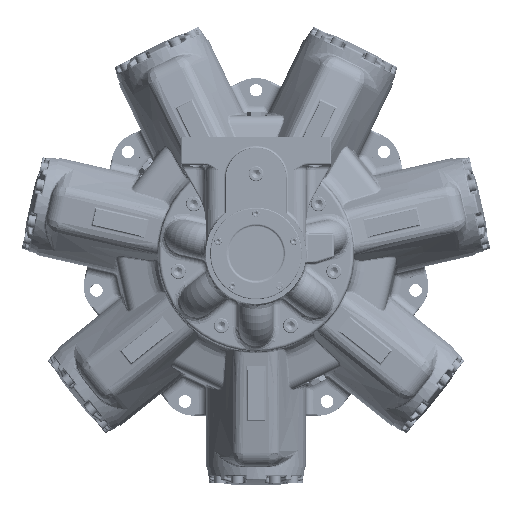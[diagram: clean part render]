
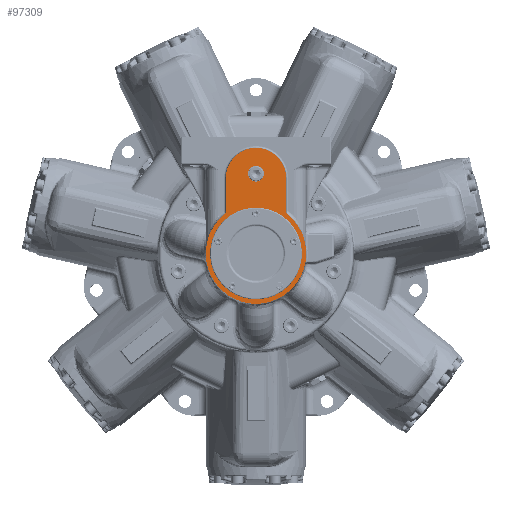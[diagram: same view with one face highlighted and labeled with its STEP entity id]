
A CAD part, top view. The second image highlights one B-rep face of the part: STEP entity #97309.
In plain terms, the highlighted planar face has unit normal (0, 0, 1).
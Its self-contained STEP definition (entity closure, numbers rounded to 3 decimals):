
#1982=FACE_BOUND('',#20767,.T.);
#1983=FACE_BOUND('',#20768,.T.);
#2299=PLANE('',#103497);
#4092=LINE('',#137819,#8685);
#4093=LINE('',#137823,#8686);
#8685=VECTOR('',#111745,10.);
#8686=VECTOR('',#111748,10.);
#14627=FACE_OUTER_BOUND('',#20766,.T.);
#20766=EDGE_LOOP('',(#59608,#59609,#59610,#59611,#59612,#59613));
#20767=EDGE_LOOP('',(#59614));
#20768=EDGE_LOOP('',(#59615));
#27240=CIRCLE('',#103498,48.101);
#27241=CIRCLE('',#103499,80.);
#27242=CIRCLE('',#103500,73.025);
#27243=CIRCLE('',#103501,12.7);
#31066=B_SPLINE_CURVE_WITH_KNOTS('',3,(#137787,#137788,#137789,#137790,
#137791,#137792,#137793,#137794,#137795,#137796,#137797,#137798,#137799,
#137800,#137801,#137802,#137803,#137804,#137805,#137806,#137807,#137808,
#137809,#137810,#137811,#137812,#137813,#137814,#137815,#137816,#137817),
 .UNSPECIFIED.,.F.,.F.,(4,3,3,3,3,3,3,3,3,3,4),(-0.273,-0.243,
-0.213,-0.195,-0.165,-0.134,
-0.117,-0.087,-0.056,-0.026,
0.),.UNSPECIFIED.);
#31067=B_SPLINE_CURVE_WITH_KNOTS('',3,(#137825,#137826,#137827,#137828,
#137829,#137830,#137831,#137832,#137833,#137834,#137835,#137836,#137837,
#137838,#137839,#137840,#137841,#137842,#137843,#137844,#137845,#137846,
#137847,#137848,#137849,#137850,#137851,#137852,#137853,#137854,#137855),
 .UNSPECIFIED.,.F.,.F.,(4,3,3,3,3,3,3,3,3,3,4),(-0.273,-0.243,
-0.213,-0.195,-0.165,-0.134,
-0.117,-0.087,-0.056,-0.026,
0.),.UNSPECIFIED.);
#36072=VERTEX_POINT('',#137785);
#36073=VERTEX_POINT('',#137786);
#36074=VERTEX_POINT('',#137818);
#36075=VERTEX_POINT('',#137820);
#36076=VERTEX_POINT('',#137822);
#36077=VERTEX_POINT('',#137824);
#36078=VERTEX_POINT('',#137857);
#36079=VERTEX_POINT('',#137859);
#44919=EDGE_CURVE('',#36072,#36073,#31066,.T.);
#44920=EDGE_CURVE('',#36074,#36072,#4092,.T.);
#44921=EDGE_CURVE('',#36075,#36074,#27240,.T.);
#44922=EDGE_CURVE('',#36076,#36075,#4093,.T.);
#44923=EDGE_CURVE('',#36077,#36076,#31067,.T.);
#44924=EDGE_CURVE('',#36073,#36077,#27241,.T.);
#44925=EDGE_CURVE('',#36078,#36078,#27242,.T.);
#44926=EDGE_CURVE('',#36079,#36079,#27243,.T.);
#59608=ORIENTED_EDGE('',*,*,#44919,.F.);
#59609=ORIENTED_EDGE('',*,*,#44920,.F.);
#59610=ORIENTED_EDGE('',*,*,#44921,.F.);
#59611=ORIENTED_EDGE('',*,*,#44922,.F.);
#59612=ORIENTED_EDGE('',*,*,#44923,.F.);
#59613=ORIENTED_EDGE('',*,*,#44924,.F.);
#59614=ORIENTED_EDGE('',*,*,#44925,.F.);
#59615=ORIENTED_EDGE('',*,*,#44926,.T.);
#97309=ADVANCED_FACE('',(#14627,#1982,#1983),#2299,.F.);
#103497=AXIS2_PLACEMENT_3D('',#137784,#111743,#111744);
#103498=AXIS2_PLACEMENT_3D('',#137821,#111746,#111747);
#103499=AXIS2_PLACEMENT_3D('',#137856,#111749,#111750);
#103500=AXIS2_PLACEMENT_3D('',#137858,#111751,#111752);
#103501=AXIS2_PLACEMENT_3D('',#137860,#111753,#111754);
#111743=DIRECTION('center_axis',(0.,0.,-1.));
#111744=DIRECTION('ref_axis',(0.,-1.,0.));
#111745=DIRECTION('',(0.,-1.,0.));
#111746=DIRECTION('center_axis',(0.,0.,-1.));
#111747=DIRECTION('ref_axis',(1.,0.,0.));
#111748=DIRECTION('',(0.,1.,0.));
#111749=DIRECTION('center_axis',(0.,0.,-1.));
#111750=DIRECTION('ref_axis',(0.,-1.,0.));
#111751=DIRECTION('center_axis',(0.,0.,
1.));
#111752=DIRECTION('ref_axis',(-0.588,-0.809,0.));
#111753=DIRECTION('center_axis',(0.,0.,-1.));
#111754=DIRECTION('ref_axis',(-1.,0.,0.));
#137784=CARTESIAN_POINT('Origin',(0.,-51.657,449.706));
#137785=CARTESIAN_POINT('',(48.101,65.405,449.706));
#137786=CARTESIAN_POINT('',(49.256,63.039,449.706));
#137787=CARTESIAN_POINT('Ctrl Pts',(48.101,65.405,449.706));
#137788=CARTESIAN_POINT('Ctrl Pts',(48.101,65.306,449.706));
#137789=CARTESIAN_POINT('Ctrl Pts',(48.106,65.207,449.706));
#137790=CARTESIAN_POINT('Ctrl Pts',(48.117,65.108,449.706));
#137791=CARTESIAN_POINT('Ctrl Pts',(48.127,65.008,449.706));
#137792=CARTESIAN_POINT('Ctrl Pts',(48.143,64.908,449.706));
#137793=CARTESIAN_POINT('Ctrl Pts',(48.164,64.809,449.706));
#137794=CARTESIAN_POINT('Ctrl Pts',(48.176,64.751,449.706));
#137795=CARTESIAN_POINT('Ctrl Pts',(48.189,64.694,449.706));
#137796=CARTESIAN_POINT('Ctrl Pts',(48.205,64.638,449.706));
#137797=CARTESIAN_POINT('Ctrl Pts',(48.231,64.54,449.706));
#137798=CARTESIAN_POINT('Ctrl Pts',(48.262,64.443,449.706));
#137799=CARTESIAN_POINT('Ctrl Pts',(48.298,64.349,449.706));
#137800=CARTESIAN_POINT('Ctrl Pts',(48.335,64.254,449.706));
#137801=CARTESIAN_POINT('Ctrl Pts',(48.375,64.16,449.706));
#137802=CARTESIAN_POINT('Ctrl Pts',(48.421,64.069,449.706));
#137803=CARTESIAN_POINT('Ctrl Pts',(48.446,64.019,449.706));
#137804=CARTESIAN_POINT('Ctrl Pts',(48.472,63.969,449.706));
#137805=CARTESIAN_POINT('Ctrl Pts',(48.5,63.921,449.706));
#137806=CARTESIAN_POINT('Ctrl Pts',(48.55,63.832,449.706));
#137807=CARTESIAN_POINT('Ctrl Pts',(48.605,63.745,449.706));
#137808=CARTESIAN_POINT('Ctrl Pts',(48.664,63.662,449.706));
#137809=CARTESIAN_POINT('Ctrl Pts',(48.722,63.579,449.706));
#137810=CARTESIAN_POINT('Ctrl Pts',(48.785,63.5,449.706));
#137811=CARTESIAN_POINT('Ctrl Pts',(48.851,63.423,449.706));
#137812=CARTESIAN_POINT('Ctrl Pts',(48.916,63.349,449.706));
#137813=CARTESIAN_POINT('Ctrl Pts',(48.985,63.277,449.706));
#137814=CARTESIAN_POINT('Ctrl Pts',(49.057,63.21,449.706));
#137815=CARTESIAN_POINT('Ctrl Pts',(49.12,63.15,449.706));
#137816=CARTESIAN_POINT('Ctrl Pts',(49.187,63.093,449.706));
#137817=CARTESIAN_POINT('Ctrl Pts',(49.256,63.039,449.706));
#137818=CARTESIAN_POINT('',(48.101,120.,449.706));
#137819=CARTESIAN_POINT('',(48.101,6.171,449.706));
#137820=CARTESIAN_POINT('',(-48.101,120.,449.706));
#137821=CARTESIAN_POINT('Origin',(0.,120.,449.706));
#137822=CARTESIAN_POINT('',(-48.101,65.405,449.706));
#137823=CARTESIAN_POINT('',(-48.101,34.171,449.706));
#137824=CARTESIAN_POINT('',(-49.256,63.039,449.706));
#137825=CARTESIAN_POINT('Ctrl Pts',(-49.256,63.039,
449.706));
#137826=CARTESIAN_POINT('Ctrl Pts',(-49.178,63.1,
449.706));
#137827=CARTESIAN_POINT('Ctrl Pts',(-49.103,63.165,
449.706));
#137828=CARTESIAN_POINT('Ctrl Pts',(-49.031,63.234,449.706));
#137829=CARTESIAN_POINT('Ctrl Pts',(-48.958,63.304,
449.706));
#137830=CARTESIAN_POINT('Ctrl Pts',(-48.889,63.378,
449.706));
#137831=CARTESIAN_POINT('Ctrl Pts',(-48.824,63.456,
449.706));
#137832=CARTESIAN_POINT('Ctrl Pts',(-48.786,63.5,449.706));
#137833=CARTESIAN_POINT('Ctrl Pts',(-48.749,63.546,
449.706));
#137834=CARTESIAN_POINT('Ctrl Pts',(-48.714,63.593,
449.706));
#137835=CARTESIAN_POINT('Ctrl Pts',(-48.653,63.674,
449.706));
#137836=CARTESIAN_POINT('Ctrl Pts',(-48.596,63.759,
449.706));
#137837=CARTESIAN_POINT('Ctrl Pts',(-48.544,63.845,
449.706));
#137838=CARTESIAN_POINT('Ctrl Pts',(-48.491,63.932,
449.706));
#137839=CARTESIAN_POINT('Ctrl Pts',(-48.443,64.022,
449.706));
#137840=CARTESIAN_POINT('Ctrl Pts',(-48.399,64.114,
449.706));
#137841=CARTESIAN_POINT('Ctrl Pts',(-48.375,64.165,449.706));
#137842=CARTESIAN_POINT('Ctrl Pts',(-48.352,64.216,
449.706));
#137843=CARTESIAN_POINT('Ctrl Pts',(-48.33,64.268,
449.706));
#137844=CARTESIAN_POINT('Ctrl Pts',(-48.291,64.363,449.706));
#137845=CARTESIAN_POINT('Ctrl Pts',(-48.257,64.459,
449.706));
#137846=CARTESIAN_POINT('Ctrl Pts',(-48.228,64.556,
449.706));
#137847=CARTESIAN_POINT('Ctrl Pts',(-48.199,64.654,
449.706));
#137848=CARTESIAN_POINT('Ctrl Pts',(-48.174,64.752,449.706));
#137849=CARTESIAN_POINT('Ctrl Pts',(-48.155,64.851,449.706));
#137850=CARTESIAN_POINT('Ctrl Pts',(-48.136,64.948,449.706));
#137851=CARTESIAN_POINT('Ctrl Pts',(-48.122,65.046,
449.706));
#137852=CARTESIAN_POINT('Ctrl Pts',(-48.113,65.144,
449.706));
#137853=CARTESIAN_POINT('Ctrl Pts',(-48.105,65.231,
449.706));
#137854=CARTESIAN_POINT('Ctrl Pts',(-48.101,65.318,
449.706));
#137855=CARTESIAN_POINT('Ctrl Pts',(-48.101,65.405,
449.706));
#137856=CARTESIAN_POINT('Origin',(0.,0.,449.706));
#137857=CARTESIAN_POINT('',(42.923,59.078,449.706));
#137858=CARTESIAN_POINT('Origin',(0.,0.,
449.706));
#137859=CARTESIAN_POINT('',(12.7,127.,449.706));
#137860=CARTESIAN_POINT('Origin',(0.,127.,449.706));
